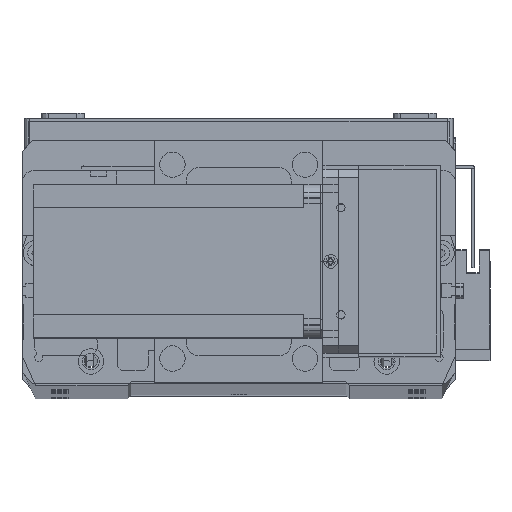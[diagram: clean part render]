
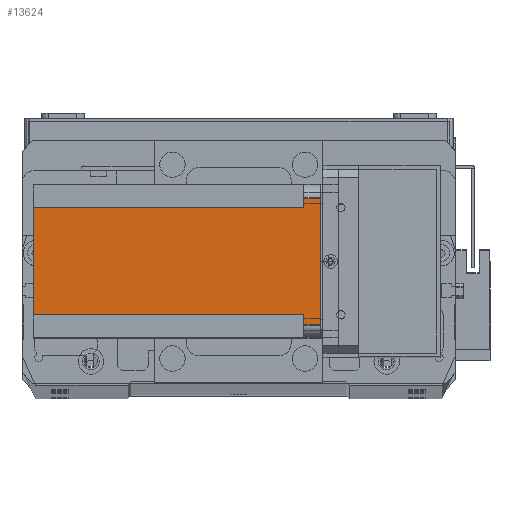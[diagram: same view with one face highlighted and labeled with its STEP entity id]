
A CAD part, top view. The second image highlights one B-rep face of the part: STEP entity #13624.
In plain terms, the highlighted planar face has unit normal (0, 0, 1) as drawn and (-1, 0, 0) by its records, which use the part's own axes.
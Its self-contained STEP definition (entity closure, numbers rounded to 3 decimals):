
#514 = ORIENTED_EDGE ( 'NONE', *, *, #8189, .F. ) ;
#1320 = ORIENTED_EDGE ( 'NONE', *, *, #8079, .F. ) ;
#3074 = LINE ( 'NONE', #14380, #8760 ) ;
#4517 = FACE_OUTER_BOUND ( 'NONE', #12961, .T. ) ;
#5255 = VECTOR ( 'NONE', #24392, 1000. ) ;
#5687 = VECTOR ( 'NONE', #13805, 1000. ) ;
#7177 = CARTESIAN_POINT ( 'NONE',  ( 0., 51., -6.5 ) ) ;
#7972 = EDGE_CURVE ( 'NONE', #19745, #29945, #11302, .T. ) ;
#8079 = EDGE_CURVE ( 'NONE', #14955, #24723, #33566, .T. ) ;
#8126 = EDGE_CURVE ( 'NONE', #14955, #29945, #26099, .T. ) ;
#8181 = EDGE_CURVE ( 'NONE', #19745, #28401, #24151, .T. ) ;
#8189 = EDGE_CURVE ( 'NONE', #26832, #28401, #16603, .T. ) ;
#8232 = EDGE_CURVE ( 'NONE', #24723, #10668, #3074, .T. ) ;
#8760 = VECTOR ( 'NONE', #14450, 1000. ) ;
#9620 = CARTESIAN_POINT ( 'NONE',  ( 0., 5., -6.5 ) ) ;
#10455 = VECTOR ( 'NONE', #19361, 1000. ) ;
#10668 = VERTEX_POINT ( 'NONE', #12605 ) ;
#11283 = ORIENTED_EDGE ( 'NONE', *, *, #8232, .F. ) ;
#11302 = LINE ( 'NONE', #14230, #17401 ) ;
#12261 = CARTESIAN_POINT ( 'NONE',  ( 0., 55., -6.5 ) ) ;
#12605 = CARTESIAN_POINT ( 'NONE',  ( 0., 9., -112.5 ) ) ;
#12961 = EDGE_LOOP ( 'NONE', ( #1320, #18994, #20578, #28039, #514, #21799, #20605, #11283 ) ) ;
#13368 = VECTOR ( 'NONE', #26522, 1000. ) ;
#13572 = DIRECTION ( 'NONE',  ( 0., -1., 0. ) ) ;
#13624 = ADVANCED_FACE ( 'NONE', ( #4517 ), #31751, .T. ) ;
#13805 = DIRECTION ( 'NONE',  ( 0., 0., 1. ) ) ;
#13844 = CARTESIAN_POINT ( 'NONE',  ( 0., 0., -112.5 ) ) ;
#13883 = CARTESIAN_POINT ( 'NONE',  ( 0., 51., -112.5 ) ) ;
#14230 = CARTESIAN_POINT ( 'NONE',  ( 0., 0., 0. ) ) ;
#14376 = CARTESIAN_POINT ( 'NONE',  ( 0., 51., -112.5 ) ) ;
#14380 = CARTESIAN_POINT ( 'NONE',  ( 0., 9., -112.5 ) ) ;
#14450 = DIRECTION ( 'NONE',  ( 0., 0., -1. ) ) ;
#14955 = VERTEX_POINT ( 'NONE', #9620 ) ;
#15415 = LINE ( 'NONE', #13883, #5687 ) ;
#15826 = DIRECTION ( 'NONE',  ( 0., -1., 0. ) ) ;
#16603 = LINE ( 'NONE', #17736, #29951 ) ;
#16701 = CARTESIAN_POINT ( 'NONE',  ( 0., 55., 0. ) ) ;
#16889 = EDGE_CURVE ( 'NONE', #22157, #26832, #15415, .T. ) ;
#16893 = EDGE_CURVE ( 'NONE', #22157, #10668, #26462, .T. ) ;
#17401 = VECTOR ( 'NONE', #15826, 1000. ) ;
#17736 = CARTESIAN_POINT ( 'NONE',  ( 0., 60., -6.5 ) ) ;
#18582 = DIRECTION ( 'NONE',  ( 0., 1., 0. ) ) ;
#18994 = ORIENTED_EDGE ( 'NONE', *, *, #8126, .T. ) ;
#19100 = CARTESIAN_POINT ( 'NONE',  ( 0., 55., -112.5 ) ) ;
#19361 = DIRECTION ( 'NONE',  ( 0., 0., -1. ) ) ;
#19745 = VERTEX_POINT ( 'NONE', #16701 ) ;
#20578 = ORIENTED_EDGE ( 'NONE', *, *, #7972, .F. ) ;
#20605 = ORIENTED_EDGE ( 'NONE', *, *, #16893, .T. ) ;
#20752 = CARTESIAN_POINT ( 'NONE',  ( 0., 9., -6.5 ) ) ;
#21799 = ORIENTED_EDGE ( 'NONE', *, *, #16889, .F. ) ;
#22157 = VERTEX_POINT ( 'NONE', #14376 ) ;
#23502 = CARTESIAN_POINT ( 'NONE',  ( 0., 5., 0. ) ) ;
#24151 = LINE ( 'NONE', #19100, #10455 ) ;
#24235 = CARTESIAN_POINT ( 'NONE',  ( 0., 5., -112.5 ) ) ;
#24392 = DIRECTION ( 'NONE',  ( 0., 0., 1. ) ) ;
#24723 = VERTEX_POINT ( 'NONE', #20752 ) ;
#25308 = AXIS2_PLACEMENT_3D ( 'NONE', #31710, #31606, #31600 ) ;
#25706 = VECTOR ( 'NONE', #13572, 1000. ) ;
#26099 = LINE ( 'NONE', #24235, #5255 ) ;
#26462 = LINE ( 'NONE', #13844, #25706 ) ;
#26522 = DIRECTION ( 'NONE',  ( 0., 1., 0. ) ) ;
#26832 = VERTEX_POINT ( 'NONE', #7177 ) ;
#26977 = CARTESIAN_POINT ( 'NONE',  ( 0., 0., -6.5 ) ) ;
#28039 = ORIENTED_EDGE ( 'NONE', *, *, #8181, .T. ) ;
#28401 = VERTEX_POINT ( 'NONE', #12261 ) ;
#29945 = VERTEX_POINT ( 'NONE', #23502 ) ;
#29951 = VECTOR ( 'NONE', #18582, 1000. ) ;
#31600 = DIRECTION ( 'NONE',  ( 0., -1., 0. ) ) ;
#31606 = DIRECTION ( 'NONE',  ( -1., 0., 0. ) ) ;
#31710 = CARTESIAN_POINT ( 'NONE',  ( 0., 0., -112.5 ) ) ;
#31751 = PLANE ( 'NONE',  #25308 ) ;
#33566 = LINE ( 'NONE', #26977, #13368 ) ;
